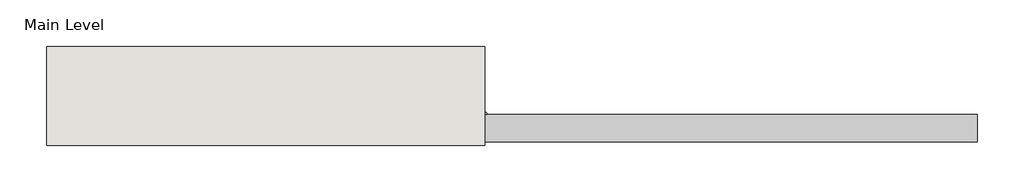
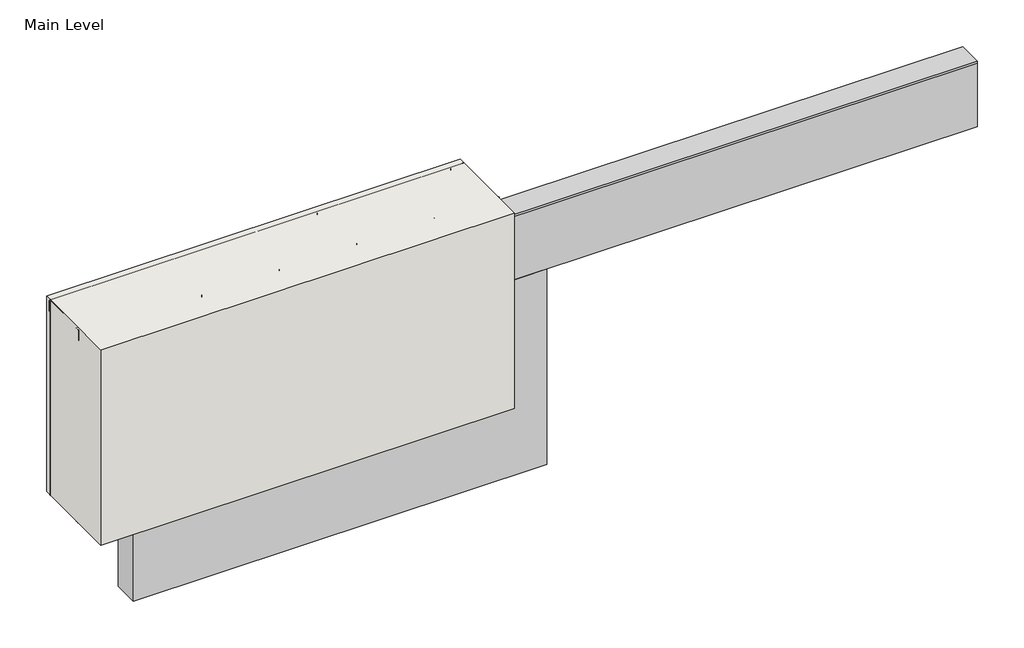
# One storey, incomplete: 19 proxies, 1 wall.
"""IFC4 building model written with IfcOpenShell, lengths in millimetres."""

import ifcopenshell
import ifcopenshell.guid

model = None  # the IFC model being written
_history = None  # IfcOwnerHistory: only IFC2X3 demands one
_inside = {}  # id of a spatial element -> (the spatial element, [elements in it])
_under = {}  # id of a project, library or spatial element -> (it, [spatial elements below it])
_declared = {}  # id of a project -> (the project, [libraries it declares])
_typed = {}  # id of a type object -> (the type object, [elements of that type])
_made_of = {}  # id of a material, layer set ... -> (it, [elements and type objects made of it])


def new_model(schema):
    """Start an empty IFC model of exactly this schema.

    Asked for "IFC4X3", IfcOpenShell would pick the latest addendum, in which some entities
    have other attributes; the version numbers below select the first issue.
    IFC2X3 requires an IfcOwnerHistory on every rooted entity: one is made here for all.
    """
    global model, _history
    if schema == "IFC4X3":
        model = ifcopenshell.file(schema_version=(4, 3, 0, 0))
    else:
        model = ifcopenshell.file(schema=schema)
    _inside.clear()
    _under.clear()
    _declared.clear()
    _typed.clear()
    _made_of.clear()
    _history = None
    if model.schema == "IFC2X3":
        org = make("IfcOrganization", Name="unknown")
        user = make(
            "IfcPersonAndOrganization",
            ThePerson=make("IfcPerson", FamilyName="unknown"),
            TheOrganization=org,
        )
        app = make(
            "IfcApplication",
            ApplicationDeveloper=org,
            Version="unknown",
            ApplicationFullName="unknown",
            ApplicationIdentifier="unknown",
        )
        _history = make(
            "IfcOwnerHistory",
            OwningUser=user,
            OwningApplication=app,
            ChangeAction="ADDED",
            CreationDate=0,
        )
    return model


def make(cls, **values):
    """One entity of the class cls with the attributes given. An attribute that is None is left unset."""
    return model.create_entity(
        cls, **{name: value for name, value in values.items() if value is not None}
    )


def rooted(cls, **values):
    """An entity with a GlobalId (a new one), such as an element, a storey or a relation."""
    return make(cls, GlobalId=ifcopenshell.guid.new(), OwnerHistory=_history, **values)


def si_unit(unit_type, name, prefix=None):
    """IfcSIUnit, for example si_unit("LENGTHUNIT", "METRE", prefix="MILLI")."""
    return make("IfcSIUnit", UnitType=unit_type, Prefix=prefix, Name=name)


def assignment(units):
    """IfcUnitAssignment: the units of a project."""
    return None if units is None else make("IfcUnitAssignment", Units=units)


def point(xyz):
    """IfcCartesianPoint."""
    return None if xyz is None else make("IfcCartesianPoint", Coordinates=xyz)


def direction(xyz):
    """IfcDirection."""
    return None if xyz is None else make("IfcDirection", DirectionRatios=xyz)


def frame(location, z_axis=None, x_axis=None):
    """IfcAxis2Placement3D, a coordinate frame: its origin and axes. An axis left out is left unset."""
    return make(
        "IfcAxis2Placement3D",
        Location=point(location),
        Axis=direction(z_axis),
        RefDirection=direction(x_axis),
    )


def frame_2d(location, x_axis=None):
    """IfcAxis2Placement2D, a coordinate frame in the plane: its origin and x axis."""
    return make(
        "IfcAxis2Placement2D", Location=point(location), RefDirection=direction(x_axis)
    )


def origin():
    """The frame at (0, 0, 0) with its axes left unset."""
    return frame((0.0, 0.0, 0.0))


def origin_with_axes():
    """The frame at (0, 0, 0) with the z axis (0, 0, 1) and the x axis (1, 0, 0) written out."""
    return frame((0.0, 0.0, 0.0), z_axis=(0.0, 0.0, 1.0), x_axis=(1.0, 0.0, 0.0))


def place(relative_to, where):
    """IfcLocalPlacement: puts the frame where relative to a parent placement (None: the world)."""
    return make(
        "IfcLocalPlacement", PlacementRelTo=relative_to, RelativePlacement=where
    )


def context(
    kind, dimensions, precision=None, world=None, true_north=None, identifier=None
):
    """IfcGeometricRepresentationContext, for example the 3D "Model" context."""
    return make(
        "IfcGeometricRepresentationContext",
        ContextIdentifier=identifier,
        ContextType=kind,
        CoordinateSpaceDimension=dimensions,
        Precision=precision,
        WorldCoordinateSystem=world,
        TrueNorth=true_north,
    )


def project(units=None, contexts=None):
    """IfcProject with its units and contexts."""
    return rooted(
        "IfcProject",
        Name="project",
        RepresentationContexts=contexts,
        UnitsInContext=assignment(units),
    )


def spatial(cls, under=None, at=None, **own):
    """A site, building, storey or space (cls), placed at a placement, below another one or the project."""
    s = rooted(cls, ObjectPlacement=at, **own)
    if under is not None:
        _under.setdefault(under.id(), (under, []))[1].append(s)
    return s


def polyline(points):
    """IfcPolyline through the points."""
    return make("IfcPolyline", Points=[point(p) for p in points])


def circle_curve(where, radius):
    """IfcCircle in the frame where."""
    return make("IfcCircle", Position=where, Radius=radius)


def trimmed(basis, trim1, trim2, sense, master):
    """IfcTrimmedCurve: the piece of a basis curve between two trims."""
    return make(
        "IfcTrimmedCurve",
        BasisCurve=basis,
        Trim1=trim1,
        Trim2=trim2,
        SenseAgreement=sense,
        MasterRepresentation=master,
    )


def segment(curve, same_sense, transition):
    """IfcCompositeCurveSegment."""
    return make(
        "IfcCompositeCurveSegment",
        Transition=transition,
        SameSense=same_sense,
        ParentCurve=curve,
    )


def composite_curve(segments, self_intersect=None):
    """IfcCompositeCurve: segments joined end to end."""
    return make("IfcCompositeCurve", Segments=segments, SelfIntersect=self_intersect)


def outline(outer, holes=None, kind="AREA"):
    """IfcArbitraryClosedProfileDef: a profile drawn as a closed curve; with holes, ...WithVoids."""
    if holes is None:
        return make("IfcArbitraryClosedProfileDef", ProfileType=kind, OuterCurve=outer)
    return make(
        "IfcArbitraryProfileDefWithVoids",
        ProfileType=kind,
        OuterCurve=outer,
        InnerCurves=holes,
    )


def extrude(swept, where, along, depth):
    """IfcExtrudedAreaSolid: the profile swept, set in the frame where, extruded along a direction by depth."""
    return make(
        "IfcExtrudedAreaSolid",
        SweptArea=swept,
        Position=where,
        ExtrudedDirection=direction(along),
        Depth=depth,
    )


def shape(context_of_items, identifier, shape_type, items):
    """IfcShapeRepresentation: the items that make up one representation, for example the "Body"."""
    return make(
        "IfcShapeRepresentation",
        ContextOfItems=context_of_items,
        RepresentationIdentifier=identifier,
        RepresentationType=shape_type,
        Items=items,
    )


def source(mapping_origin, context_of_items, identifier, shape_type, items):
    """IfcRepresentationMap: a shape defined once, which mapped items show again and again."""
    return make(
        "IfcRepresentationMap",
        MappingOrigin=mapping_origin,
        MappedRepresentation=shape(context_of_items, identifier, shape_type, items),
    )


def transform(
    local_origin,
    x_axis=None,
    y_axis=None,
    z_axis=None,
    scale=None,
    scale2=None,
    scale3=None,
    uniform=True,
):
    """IfcCartesianTransformationOperator3D, or its non-uniform kind. x_axis, y_axis, z_axis: its Axis1, 2, 3."""
    if uniform:
        return make(
            "IfcCartesianTransformationOperator3D",
            Axis1=direction(x_axis),
            Axis2=direction(y_axis),
            LocalOrigin=point(local_origin),
            Scale=scale,
            Axis3=direction(z_axis),
        )
    return make(
        "IfcCartesianTransformationOperator3DnonUniform",
        Axis1=direction(x_axis),
        Axis2=direction(y_axis),
        LocalOrigin=point(local_origin),
        Scale=scale,
        Axis3=direction(z_axis),
        Scale2=scale2,
        Scale3=scale3,
    )


def mapped(mapping_source, mapping_target):
    """IfcMappedItem: shows the shape of a source again, moved by a transform."""
    return make(
        "IfcMappedItem", MappingSource=mapping_source, MappingTarget=mapping_target
    )


def made_of(thing, what):
    """Note that an element or type object is made of a material, layer set ...; save() writes the relation."""
    if what is not None:
        _made_of.setdefault(what.id(), (what, []))[1].append(thing)
    return thing


def element(
    cls,
    number,
    at=None,
    inside=None,
    cuts=None,
    type_object=None,
    material=None,
    context=None,
    identifier="Body",
    shape_type=None,
    held_by="IfcProductDefinitionShape",
    body=None,
    shapes=None,
    **own,
):
    """One element of the class cls, such as IfcWall. Its Tag is "e" and its number.

    at: its placement. inside: the storey or other place that contains it. cuts: it is an
    opening in that element (IfcRelVoidsElement). A single representation is given by context,
    identifier, shape_type and body (its items); several are given by shapes. held_by: the class
    of the entity that holds the representations. save() writes the other relations.
    """
    e = rooted(cls, Tag="e%d" % number, ObjectPlacement=at, **own)
    if body is not None:
        shapes = [shape(context, identifier, shape_type, body)]
    if shapes is not None:
        e.Representation = make(held_by, Representations=shapes)
    if inside is not None:
        _inside.setdefault(inside.id(), (inside, []))[1].append(e)
    if cuts is not None:
        rooted(
            "IfcRelVoidsElement", RelatingBuildingElement=cuts, RelatedOpeningElement=e
        )
    if type_object is not None:
        _typed.setdefault(type_object.id(), (type_object, []))[1].append(e)
    return made_of(e, material)


def aggregate(whole, parts):
    """IfcRelAggregates: a whole, such as a stair, and the parts it consists of."""
    return rooted("IfcRelAggregates", RelatingObject=whole, RelatedObjects=parts)


def save(model, path):
    """Write the relations noted so far, then the file.

    IfcRelAggregates (storeys below a building ...), IfcRelContainedInSpatialStructure (elements
    in a storey), IfcRelDefinesByType, IfcRelAssociatesMaterial and IfcRelDeclares: one each for
    every whole, place, type object, material and project.
    """
    for whole, parts in _under.values():
        aggregate(whole, parts)
    for where, things in _inside.values():
        rooted(
            "IfcRelContainedInSpatialStructure",
            RelatedElements=things,
            RelatingStructure=where,
        )
    for kind, things in _typed.values():
        rooted("IfcRelDefinesByType", RelatedObjects=things, RelatingType=kind)
    for what, things in _made_of.values():
        rooted("IfcRelAssociatesMaterial", RelatedObjects=things, RelatingMaterial=what)
    for by, libraries in _declared.values():
        rooted("IfcRelDeclares", RelatingContext=by, RelatedDefinitions=libraries)
    model.write(path)


def generic_models_ff296894(model_context):
    return source(origin(), model_context, "Body", "SweptSolid", [
        extrude(outline(composite_curve([segment(trimmed(circle_curve(frame_2d((15.875, 0.0)), 3.175), [point((15.875, 3.175))], [point((15.875, -3.175))], False, "CARTESIAN"), True, "CONTINUOUS"), segment(polyline([(15.875, -3.175), (-15.875, -3.175)]), True, "CONTINUOUS"), segment(trimmed(circle_curve(frame_2d((-15.875, 0.0)), 3.175), [point((-15.875, -3.175))], [point((-15.875, 3.175))], False, "CARTESIAN"), True, "CONTINUOUS"), segment(polyline([(-15.875, 3.175), (15.875, 3.175)]), True, "CONTINUOUS")], self_intersect=False)), origin_with_axes(), (0.0, 0.0, 1.0), 603.25),
    ])


def generic_models_2388f69b(model_context):
    return source(origin(), model_context, "Body", "SweptSolid", [
        extrude(outline(composite_curve([segment(polyline([(609.6, 63.5), (606.425, 63.5), (606.425, 70.2679713)]), True, "CONTINUOUS"), segment(trimmed(circle_curve(frame_2d((603.25, 69.85)), 3.2023936), [point((606.425, 70.2679713))], [point((603.6679713, 73.025))], True, "CARTESIAN"), True, "CONTINUOUS"), segment(polyline([(603.6679713, 73.025), (577.4320287, 73.025)]), True, "CONTINUOUS"), segment(trimmed(circle_curve(frame_2d((577.85, 69.85)), 3.2023936), [point((577.4320287, 73.025))], [point((574.675, 70.2679713))], True, "CARTESIAN"), True, "CONTINUOUS"), segment(polyline([(574.675, 70.2679713), (574.675, -70.2679713)]), True, "CONTINUOUS"), segment(trimmed(circle_curve(frame_2d((577.85, -69.85)), 3.2023936), [point((574.675, -70.2679713))], [point((577.4320287, -73.025))], True, "CARTESIAN"), True, "CONTINUOUS"), segment(polyline([(577.4320287, -73.025), (603.6679713, -73.025)]), True, "CONTINUOUS"), segment(trimmed(circle_curve(frame_2d((603.25, -69.85)), 3.2023936), [point((603.6679713, -73.025))], [point((606.425, -70.2679713))], True, "CARTESIAN"), True, "CONTINUOUS"), segment(polyline([(606.425, -70.2679713), (606.425, -63.5), (609.6, -63.5), (609.6, -69.85)]), True, "CONTINUOUS"), segment(trimmed(circle_curve(frame_2d((603.25, -69.85)), 6.35), [point((609.6, -69.85))], [point((603.25, -76.2))], False, "CARTESIAN"), True, "CONTINUOUS"), segment(polyline([(603.25, -76.2), (577.85, -76.2)]), True, "CONTINUOUS"), segment(trimmed(circle_curve(frame_2d((577.85, -69.85)), 6.35), [point((577.85, -76.2))], [point((571.5, -69.85))], False, "CARTESIAN"), True, "CONTINUOUS"), segment(polyline([(571.5, -69.85), (571.5, 69.85)]), True, "CONTINUOUS"), segment(trimmed(circle_curve(frame_2d((577.85, 69.85)), 6.35), [point((571.5, 69.85))], [point((577.85, 76.2))], False, "CARTESIAN"), True, "CONTINUOUS"), segment(polyline([(577.85, 76.2), (603.25, 76.2)]), True, "CONTINUOUS"), segment(trimmed(circle_curve(frame_2d((603.25, 69.85)), 6.35), [point((603.25, 76.2))], [point((609.6, 69.85))], False, "CARTESIAN"), True, "CONTINUOUS"), segment(polyline([(609.6, 69.85), (609.6, 63.5)]), True, "CONTINUOUS")], self_intersect=False)), origin_with_axes(), (0.0, 0.0, 1.0), 603.25),
        extrude(outline(composite_curve([segment(polyline([(215.9, 63.5), (212.725, 63.5), (212.725, 70.2679713)]), True, "CONTINUOUS"), segment(trimmed(circle_curve(frame_2d((209.55, 69.85)), 3.2023936), [point((212.725, 70.2679713))], [point((209.9679713, 73.025))], True, "CARTESIAN"), True, "CONTINUOUS"), segment(polyline([(209.9679713, 73.025), (183.7320287, 73.025)]), True, "CONTINUOUS"), segment(trimmed(circle_curve(frame_2d((184.15, 69.85)), 3.2023936), [point((183.7320287, 73.025))], [point((180.975, 70.2679713))], True, "CARTESIAN"), True, "CONTINUOUS"), segment(polyline([(180.975, 70.2679713), (180.975, -70.2679713)]), True, "CONTINUOUS"), segment(trimmed(circle_curve(frame_2d((184.15, -69.85)), 3.2023936), [point((180.975, -70.2679713))], [point((183.7320287, -73.025))], True, "CARTESIAN"), True, "CONTINUOUS"), segment(polyline([(183.7320287, -73.025), (209.9679713, -73.025)]), True, "CONTINUOUS"), segment(trimmed(circle_curve(frame_2d((209.55, -69.85)), 3.2023936), [point((209.9679713, -73.025))], [point((212.725, -70.2679713))], True, "CARTESIAN"), True, "CONTINUOUS"), segment(polyline([(212.725, -70.2679713), (212.725, -63.5), (215.9, -63.5), (215.9, -69.85)]), True, "CONTINUOUS"), segment(trimmed(circle_curve(frame_2d((209.55, -69.85)), 6.35), [point((215.9, -69.85))], [point((209.55, -76.2))], False, "CARTESIAN"), True, "CONTINUOUS"), segment(polyline([(209.55, -76.2), (184.15, -76.2)]), True, "CONTINUOUS"), segment(trimmed(circle_curve(frame_2d((184.15, -69.85)), 6.35), [point((184.15, -76.2))], [point((177.8, -69.85))], False, "CARTESIAN"), True, "CONTINUOUS"), segment(polyline([(177.8, -69.85), (177.8, 69.85)]), True, "CONTINUOUS"), segment(trimmed(circle_curve(frame_2d((184.15, 69.85)), 6.35), [point((177.8, 69.85))], [point((184.15, 76.2))], False, "CARTESIAN"), True, "CONTINUOUS"), segment(polyline([(184.15, 76.2), (209.55, 76.2)]), True, "CONTINUOUS"), segment(trimmed(circle_curve(frame_2d((209.55, 69.85)), 6.35), [point((209.55, 76.2))], [point((215.9, 69.85))], False, "CARTESIAN"), True, "CONTINUOUS"), segment(polyline([(215.9, 69.85), (215.9, 63.5)]), True, "CONTINUOUS")], self_intersect=False)), origin_with_axes(), (0.0, 0.0, 1.0), 603.25),
        extrude(outline(composite_curve([segment(polyline([(-177.8, 63.5), (-180.975, 63.5), (-180.975, 70.2679713)]), True, "CONTINUOUS"), segment(trimmed(circle_curve(frame_2d((-184.15, 69.85)), 3.2023936), [point((-180.975, 70.2679713))], [point((-183.7320287, 73.025))], True, "CARTESIAN"), True, "CONTINUOUS"), segment(polyline([(-183.7320287, 73.025), (-209.9679713, 73.025)]), True, "CONTINUOUS"), segment(trimmed(circle_curve(frame_2d((-209.55, 69.85)), 3.2023936), [point((-209.9679713, 73.025))], [point((-212.725, 70.2679713))], True, "CARTESIAN"), True, "CONTINUOUS"), segment(polyline([(-212.725, 70.2679713), (-212.725, -70.2679713)]), True, "CONTINUOUS"), segment(trimmed(circle_curve(frame_2d((-209.55, -69.85)), 3.2023936), [point((-212.725, -70.2679713))], [point((-209.9679713, -73.025))], True, "CARTESIAN"), True, "CONTINUOUS"), segment(polyline([(-209.9679713, -73.025), (-183.7320287, -73.025)]), True, "CONTINUOUS"), segment(trimmed(circle_curve(frame_2d((-184.15, -69.85)), 3.2023936), [point((-183.7320287, -73.025))], [point((-180.975, -70.2679713))], True, "CARTESIAN"), True, "CONTINUOUS"), segment(polyline([(-180.975, -70.2679713), (-180.975, -63.5), (-177.8, -63.5), (-177.8, -69.85)]), True, "CONTINUOUS"), segment(trimmed(circle_curve(frame_2d((-184.15, -69.85)), 6.35), [point((-177.8, -69.85))], [point((-184.15, -76.2))], False, "CARTESIAN"), True, "CONTINUOUS"), segment(polyline([(-184.15, -76.2), (-209.55, -76.2)]), True, "CONTINUOUS"), segment(trimmed(circle_curve(frame_2d((-209.55, -69.85)), 6.35), [point((-209.55, -76.2))], [point((-215.9, -69.85))], False, "CARTESIAN"), True, "CONTINUOUS"), segment(polyline([(-215.9, -69.85), (-215.9, 69.85)]), True, "CONTINUOUS"), segment(trimmed(circle_curve(frame_2d((-209.55, 69.85)), 6.35), [point((-215.9, 69.85))], [point((-209.55, 76.2))], False, "CARTESIAN"), True, "CONTINUOUS"), segment(polyline([(-209.55, 76.2), (-184.15, 76.2)]), True, "CONTINUOUS"), segment(trimmed(circle_curve(frame_2d((-184.15, 69.85)), 6.35), [point((-184.15, 76.2))], [point((-177.8, 69.85))], False, "CARTESIAN"), True, "CONTINUOUS"), segment(polyline([(-177.8, 69.85), (-177.8, 63.5)]), True, "CONTINUOUS")], self_intersect=False)), origin_with_axes(), (0.0, 0.0, 1.0), 603.25),
        extrude(outline(composite_curve([segment(polyline([(-571.5, 63.5), (-574.675, 63.5), (-574.675, 70.2679713)]), True, "CONTINUOUS"), segment(trimmed(circle_curve(frame_2d((-577.85, 69.85)), 3.2023936), [point((-574.675, 70.2679713))], [point((-577.4320287, 73.025))], True, "CARTESIAN"), True, "CONTINUOUS"), segment(polyline([(-577.4320287, 73.025), (-603.6679713, 73.025)]), True, "CONTINUOUS"), segment(trimmed(circle_curve(frame_2d((-603.25, 69.85)), 3.2023936), [point((-603.6679713, 73.025))], [point((-606.425, 70.2679713))], True, "CARTESIAN"), True, "CONTINUOUS"), segment(polyline([(-606.425, 70.2679713), (-606.425, -70.2679713)]), True, "CONTINUOUS"), segment(trimmed(circle_curve(frame_2d((-603.25, -69.85)), 3.2023936), [point((-606.425, -70.2679713))], [point((-603.6679713, -73.025))], True, "CARTESIAN"), True, "CONTINUOUS"), segment(polyline([(-603.6679713, -73.025), (-577.4320287, -73.025)]), True, "CONTINUOUS"), segment(trimmed(circle_curve(frame_2d((-577.85, -69.85)), 3.2023936), [point((-577.4320287, -73.025))], [point((-574.675, -70.2679713))], True, "CARTESIAN"), True, "CONTINUOUS"), segment(polyline([(-574.675, -70.2679713), (-574.675, -63.5), (-571.5, -63.5), (-571.5, -69.85)]), True, "CONTINUOUS"), segment(trimmed(circle_curve(frame_2d((-577.85, -69.85)), 6.35), [point((-571.5, -69.85))], [point((-577.85, -76.2))], False, "CARTESIAN"), True, "CONTINUOUS"), segment(polyline([(-577.85, -76.2), (-603.25, -76.2)]), True, "CONTINUOUS"), segment(trimmed(circle_curve(frame_2d((-603.25, -69.85)), 6.35), [point((-603.25, -76.2))], [point((-609.6, -69.85))], False, "CARTESIAN"), True, "CONTINUOUS"), segment(polyline([(-609.6, -69.85), (-609.6, 69.85)]), True, "CONTINUOUS"), segment(trimmed(circle_curve(frame_2d((-603.25, 69.85)), 6.35), [point((-609.6, 69.85))], [point((-603.25, 76.2))], False, "CARTESIAN"), True, "CONTINUOUS"), segment(polyline([(-603.25, 76.2), (-577.85, 76.2)]), True, "CONTINUOUS"), segment(trimmed(circle_curve(frame_2d((-577.85, 69.85)), 6.35), [point((-577.85, 76.2))], [point((-571.5, 69.85))], False, "CARTESIAN"), True, "CONTINUOUS"), segment(polyline([(-571.5, 69.85), (-571.5, 63.5)]), True, "CONTINUOUS")], self_intersect=False)), origin_with_axes(), (0.0, 0.0, 1.0), 603.25),
    ])


def proxy_998bcb27(model_context):
    return source(origin(), model_context, "Body", "SweptSolid", [
        extrude(outline(polyline([(0.0, 539.75), (0.0, 609.6), (76.2, 609.6), (76.2, -609.6), (0.0, -609.6), (0.0, -539.75), (12.7, -552.45), (12.7, -514.35), (0.0, -527.05), (0.0, -387.35), (12.7, -400.05), (12.7, -361.95), (0.0, -374.65), (0.0, -234.95), (12.7, -247.65), (12.7, -209.55), (0.0, -222.25), (0.0, -82.55), (12.7, -95.25), (12.7, -57.15), (0.0, -69.85), (0.0, 69.85), (12.7, 57.15), (12.7, 95.25), (0.0, 82.55), (0.0, 222.25), (12.7, 209.55), (12.7, 247.65), (0.0, 234.95), (0.0, 374.65), (12.7, 361.95), (12.7, 400.05), (0.0, 387.35), (0.0, 527.05), (12.7, 514.35), (12.7, 552.45), (0.0, 539.75)])), frame((0.0, -304.8, 0.0), z_axis=(0.0, 1.0, 0.0), x_axis=(0.0, 0.0, 1.0)), (0.0, 0.0, 1.0), 609.6),
    ])


def proxy_4c3b85e5(model_context):
    return source(origin(), model_context, "Body", "SweptSolid", [
        extrude(outline(polyline([(-101.6, 76.2), (-95.25, 76.2), (-95.25, 6.35), (-34.925, 6.35), (-34.925, 0.0), (-101.6, 0.0), (-101.6, 76.2)])), frame((-1219.2, 0.0, 0.0), z_axis=(1.0, 0.0, 0.0), x_axis=(0.0, 1.0, 0.0)), (0.0, 0.0, 1.0), 2438.4),
        extrude(outline(polyline([(101.6, 0.0), (-34.925, 0.0), (-34.925, 6.35), (-95.25, 6.35), (-95.25, 76.2), (101.6, 76.2), (101.6, 0.0)])), frame((-1219.2, 0.0, 0.0), z_axis=(1.0, 0.0, 0.0), x_axis=(0.0, 1.0, 0.0)), (0.0, 0.0, 1.0), 2438.4),
    ])


def wood_blocking_3523bb6f(model_context):
    return source(origin(), model_context, "Body", "SweptSolid", [
        extrude(outline(composite_curve([segment(polyline([(146.05, 0.0), (6.35, 0.0)]), True, "CONTINUOUS"), segment(trimmed(circle_curve(frame_2d((6.35, 6.35)), 6.35), [point((6.35, 0.0))], [point((0.0, 6.35))], False, "CARTESIAN"), True, "CONTINUOUS"), segment(polyline([(0.0, 6.35), (0.0, 38.1), (1.5875, 38.1), (1.5875, 6.35)]), True, "CONTINUOUS"), segment(trimmed(circle_curve(frame_2d((6.35, 6.35)), 4.7625), [point((1.5875, 6.35))], [point((6.35, 1.5875))], True, "CARTESIAN"), True, "CONTINUOUS"), segment(polyline([(6.35, 1.5875), (146.0504713, 1.5875)]), True, "CONTINUOUS"), segment(trimmed(circle_curve(frame_2d((146.05, 6.35)), 4.7625), [point((146.0504713, 1.5875))], [point((150.8125, 6.3495615))], True, "CARTESIAN"), True, "CONTINUOUS"), segment(polyline([(150.8125, 6.3495615), (150.8125, 38.1), (152.4, 38.1), (152.4, 6.35)]), True, "CONTINUOUS"), segment(trimmed(circle_curve(frame_2d((146.05, 6.35)), 6.35), [point((152.4, 6.35))], [point((146.05, 0.0))], False, "CARTESIAN"), True, "CONTINUOUS")], self_intersect=False)), frame((0.0, 0.0, 0.0), z_axis=(1.0, 0.0, 0.0), x_axis=(0.0, 1.0, 0.0)), (0.0, 0.0, 1.0), 1219.2),
    ])


model = new_model("IFC4")

# Units and contexts
model_context = context("Model", 3, world=origin())
ifc_project = project(units=[si_unit("LENGTHUNIT", "METRE", prefix="MILLI")], contexts=[model_context])

# Site, building, storey
site = spatial("IfcSite", under=ifc_project)
building = spatial("IfcBuilding", under=site)
storey = spatial("IfcBuildingStorey", under=building, Name="Main Level", Elevation=0.0)

# Proxies
placement = place(None, origin())
generic_models_shape = generic_models_ff296894(model_context)
element("IfcBuildingElementProxy", 1, Name="Durabond Generic Model Insulation Adhesive Flat : Durabond Generic Model Insulation Adhesive Flat", ObjectType="Durabond Generic Model Insulation Adhesive Flat : Durabond Generic Model Insulation Adhesive Flat", at=placement, inside=storey, context=model_context, shape_type="MappedRepresentation", body=[
    mapped(generic_models_shape, transform((26355.0289273, 627.6316297, 0.0), x_axis=(1.0, 0.0, 0.0), y_axis=(0.0, 1.0, 0.0), z_axis=(0.0, 0.0, 1.0))),
])
element("IfcBuildingElementProxy", 2, Name="Durabond Generic Model Insulation Adhesive Flat : Durabond Generic Model Insulation Adhesive Flat", ObjectType="Durabond Generic Model Insulation Adhesive Flat : Durabond Generic Model Insulation Adhesive Flat", at=placement, inside=storey, context=model_context, shape_type="MappedRepresentation", body=[
    mapped(generic_models_shape, transform((26431.2289273, 627.6316297, 0.0), x_axis=(1.0, 0.0, 0.0), y_axis=(0.0, 1.0, 0.0), z_axis=(0.0, 0.0, 1.0))),
])
element("IfcBuildingElementProxy", 3, Name="Durabond Generic Model Insulation Adhesive Flat : Durabond Generic Model Insulation Adhesive Flat", ObjectType="Durabond Generic Model Insulation Adhesive Flat : Durabond Generic Model Insulation Adhesive Flat", at=placement, inside=storey, context=model_context, shape_type="MappedRepresentation", body=[
    mapped(generic_models_shape, transform((26507.4289273, 627.6316297, 0.0), x_axis=(1.0, 0.0, 0.0), y_axis=(0.0, 1.0, 0.0), z_axis=(0.0, 0.0, 1.0))),
])
element("IfcBuildingElementProxy", 4, Name="Durabond Generic Model Insulation Adhesive Flat : Durabond Generic Model Insulation Adhesive Flat", ObjectType="Durabond Generic Model Insulation Adhesive Flat : Durabond Generic Model Insulation Adhesive Flat", at=placement, inside=storey, context=model_context, shape_type="MappedRepresentation", body=[
    mapped(generic_models_shape, transform((26583.6289273, 627.6316297, 0.0), x_axis=(1.0, 0.0, 0.0), y_axis=(0.0, 1.0, 0.0), z_axis=(0.0, 0.0, 1.0))),
])
element("IfcBuildingElementProxy", 5, Name="Durabond Generic Model Insulation Adhesive Flat : Durabond Generic Model Insulation Adhesive Flat", ObjectType="Durabond Generic Model Insulation Adhesive Flat : Durabond Generic Model Insulation Adhesive Flat", at=placement, inside=storey, context=model_context, shape_type="MappedRepresentation", body=[
    mapped(generic_models_shape, transform((26659.8289273, 627.6316297, 0.0), x_axis=(1.0, 0.0, 0.0), y_axis=(0.0, 1.0, 0.0), z_axis=(0.0, 0.0, 1.0))),
])
element("IfcBuildingElementProxy", 6, Name="Durabond Generic Model Insulation Adhesive Flat : Durabond Generic Model Insulation Adhesive Flat", ObjectType="Durabond Generic Model Insulation Adhesive Flat : Durabond Generic Model Insulation Adhesive Flat", at=placement, inside=storey, context=model_context, shape_type="MappedRepresentation", body=[
    mapped(generic_models_shape, transform((26736.0289273, 627.6316297, 0.0), x_axis=(1.0, 0.0, 0.0), y_axis=(0.0, 1.0, 0.0), z_axis=(0.0, 0.0, 1.0))),
])
element("IfcBuildingElementProxy", 7, Name="Durabond Generic Model Insulation Adhesive Flat : Durabond Generic Model Insulation Adhesive Flat", ObjectType="Durabond Generic Model Insulation Adhesive Flat : Durabond Generic Model Insulation Adhesive Flat", at=placement, inside=storey, context=model_context, shape_type="MappedRepresentation", body=[
    mapped(generic_models_shape, transform((26812.2289273, 627.6316297, 0.0), x_axis=(1.0, 0.0, 0.0), y_axis=(0.0, 1.0, 0.0), z_axis=(0.0, 0.0, 1.0))),
])
element("IfcBuildingElementProxy", 8, Name="Durabond Generic Model Insulation Adhesive Flat : Durabond Generic Model Insulation Adhesive Flat", ObjectType="Durabond Generic Model Insulation Adhesive Flat : Durabond Generic Model Insulation Adhesive Flat", at=placement, inside=storey, context=model_context, shape_type="MappedRepresentation", body=[
    mapped(generic_models_shape, transform((26888.4289273, 627.6316297, 0.0), x_axis=(1.0, 0.0, 0.0), y_axis=(0.0, 1.0, 0.0), z_axis=(0.0, 0.0, 1.0))),
])
element("IfcBuildingElementProxy", 9, Name="Durabond Generic Model Insulation Adhesive Flat : Durabond Generic Model Insulation Adhesive Flat", ObjectType="Durabond Generic Model Insulation Adhesive Flat : Durabond Generic Model Insulation Adhesive Flat", at=placement, inside=storey, context=model_context, shape_type="MappedRepresentation", body=[
    mapped(generic_models_shape, transform((26964.6289273, 627.6316297, 0.0), x_axis=(1.0, 0.0, 0.0), y_axis=(0.0, 1.0, 0.0), z_axis=(0.0, 0.0, 1.0))),
])
element("IfcBuildingElementProxy", 10, Name="Durabond Generic Model Insulation Adhesive Flat : Durabond Generic Model Insulation Adhesive Flat", ObjectType="Durabond Generic Model Insulation Adhesive Flat : Durabond Generic Model Insulation Adhesive Flat", at=placement, inside=storey, context=model_context, shape_type="MappedRepresentation", body=[
    mapped(generic_models_shape, transform((27040.8289273, 627.6316297, 0.0), x_axis=(1.0, 0.0, 0.0), y_axis=(0.0, 1.0, 0.0), z_axis=(0.0, 0.0, 1.0))),
])
element("IfcBuildingElementProxy", 11, Name="Durabond Generic Model Insulation Adhesive Flat : Durabond Generic Model Insulation Adhesive Flat", ObjectType="Durabond Generic Model Insulation Adhesive Flat : Durabond Generic Model Insulation Adhesive Flat", at=placement, inside=storey, context=model_context, shape_type="MappedRepresentation", body=[
    mapped(generic_models_shape, transform((27117.0289273, 627.6316297, 0.0), x_axis=(1.0, 0.0, 0.0), y_axis=(0.0, 1.0, 0.0), z_axis=(0.0, 0.0, 1.0))),
])
element("IfcBuildingElementProxy", 12, Name="Durabond Generic Model Insulation Adhesive Flat : Durabond Generic Model Insulation Adhesive Flat", ObjectType="Durabond Generic Model Insulation Adhesive Flat : Durabond Generic Model Insulation Adhesive Flat", at=placement, inside=storey, context=model_context, shape_type="MappedRepresentation", body=[
    mapped(generic_models_shape, transform((27193.2289273, 627.6316297, 0.0), x_axis=(1.0, 0.0, 0.0), y_axis=(0.0, 1.0, 0.0), z_axis=(0.0, 0.0, 1.0))),
])
element("IfcBuildingElementProxy", 13, Name="Durabond Generic Model Insulation Adhesive Flat : Durabond Generic Model Insulation Adhesive Flat", ObjectType="Durabond Generic Model Insulation Adhesive Flat : Durabond Generic Model Insulation Adhesive Flat", at=placement, inside=storey, context=model_context, shape_type="MappedRepresentation", body=[
    mapped(generic_models_shape, transform((27269.4289273, 627.6316297, 0.0), x_axis=(1.0, 0.0, 0.0), y_axis=(0.0, 1.0, 0.0), z_axis=(0.0, 0.0, 1.0))),
])
element("IfcBuildingElementProxy", 14, Name="Durabond Generic Model Insulation Adhesive Flat : Durabond Generic Model Insulation Adhesive Flat", ObjectType="Durabond Generic Model Insulation Adhesive Flat : Durabond Generic Model Insulation Adhesive Flat", at=placement, inside=storey, context=model_context, shape_type="MappedRepresentation", body=[
    mapped(generic_models_shape, transform((27345.6289273, 627.6316297, 0.0), x_axis=(1.0, 0.0, 0.0), y_axis=(0.0, 1.0, 0.0), z_axis=(0.0, 0.0, 1.0))),
])
element("IfcBuildingElementProxy", 15, Name="Durabond Generic Model Insulation Adhesive Flat : Durabond Generic Model Insulation Adhesive Flat", ObjectType="Durabond Generic Model Insulation Adhesive Flat : Durabond Generic Model Insulation Adhesive Flat", at=placement, inside=storey, context=model_context, shape_type="MappedRepresentation", body=[
    mapped(generic_models_shape, transform((27421.8289273, 627.6316297, 0.0), x_axis=(1.0, 0.0, 0.0), y_axis=(0.0, 1.0, 0.0), z_axis=(0.0, 0.0, 1.0))),
])
generic_models_2_shape = generic_models_2388f69b(model_context)
element("IfcBuildingElementProxy", 16, Name="CRAi Generic Model Metal Stud Array : CRAi Generic Model Metal Stud Array", ObjectType="CRAi Generic Model Metal Stud Array : CRAi Generic Model Metal Stud Array", at=placement, inside=storey, context=model_context, shape_type="MappedRepresentation", body=[
    mapped(generic_models_2_shape, transform((26824.9289273, 726.0566297, 0.0), x_axis=(-1.0, 0.0, 0.0), y_axis=(0.0, -1.0, 0.0), z_axis=(0.0, 0.0, 1.0))),
])
proxy_shape = proxy_998bcb27(model_context)
element("IfcBuildingElementProxy", 17, Name="Durabond Generic Model Flexlite Insulation Board : 3\"", ObjectType="Durabond Generic Model Flexlite Insulation Board : 3\"", at=placement, inside=storey, context=model_context, shape_type="MappedRepresentation", body=[
    mapped(proxy_shape, transform((26926.5289273, 624.4566297, 88.9), x_axis=(1.0, 0.0, 0.0), y_axis=(0.0, 0.0, 1.0), z_axis=(0.0, -1.0, 0.0))),
])
proxy_2_shape = proxy_4c3b85e5(model_context)
element("IfcBuildingElementProxy", 18, Name="Durabond Generic Model Flexlite Boundary Board : 3\"", ObjectType="Durabond Generic Model Flexlite Boundary Board : 3\"", at=placement, inside=storey, context=model_context, shape_type="MappedRepresentation", body=[
    mapped(proxy_2_shape, transform((27586.9289273, 624.4566297, 495.3), x_axis=(-1.0, 0.0, 0.0), y_axis=(0.0, 0.0, -1.0), z_axis=(0.0, -1.0, 0.0))),
])
wood_blocking_shape = wood_blocking_3523bb6f(model_context)
element("IfcBuildingElementProxy", 19, Name="CRAi Generic Model Line Based Metal Framing Track : Wood Blocking", ObjectType="CRAi Generic Model Line Based Metal Framing Track : Wood Blocking", at=placement, inside=storey, context=model_context, shape_type="MappedRepresentation", body=[
    mapped(wood_blocking_shape, transform((26215.3289273, 802.2566297, 609.6), x_axis=(1.0, 0.0, 0.0), y_axis=(0.0, -1.0, 0.0), z_axis=(0.0, 0.0, -1.0))),
])

# Wall
element("IfcWall", 20, ObjectType="189mm (7.5”) EIFS Field Applied on Mtl. Stud Layer - 50mm Grooved Insulation Board Metal Stud Wall (AirStop)", at=placement, inside=storey, context=model_context, shape_type="SweptSolid", body=[
    extrude(outline(polyline([(27434.5289273, 538.7316297), (26215.3289273, 538.7316297), (26215.3289273, 814.9566297), (27434.5289273, 814.9566297), (27434.5289273, 538.7316297)])), origin_with_axes(), (0.0, 0.0, 1.0), 609.6),
])

save(model, "model.ifc")
